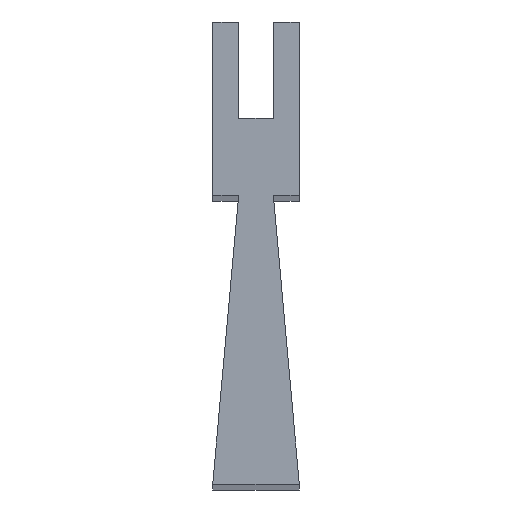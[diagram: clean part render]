
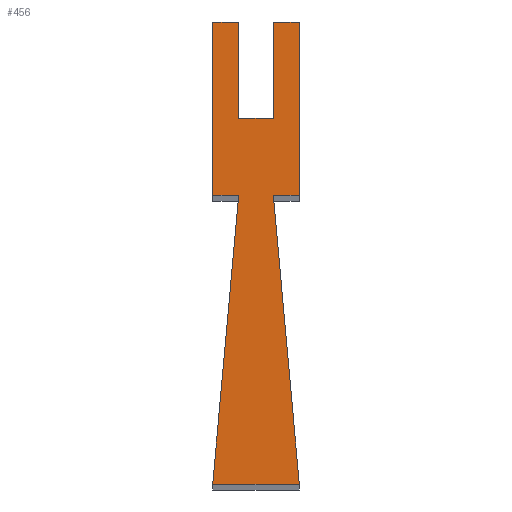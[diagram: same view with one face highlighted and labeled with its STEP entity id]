
A CAD part, top view. The second image highlights one B-rep face of the part: STEP entity #456.
In plain terms, the highlighted planar face has unit normal (0, 0, 1).
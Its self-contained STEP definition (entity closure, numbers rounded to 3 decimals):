
#3 = CARTESIAN_POINT ( 'NONE',  ( 1.8, -9., 175. ) ) ;
#4 = CARTESIAN_POINT ( 'NONE',  ( 4.5, 9., 175. ) ) ;
#15 = VERTEX_POINT ( 'NONE', #292 ) ;
#25 = LINE ( 'NONE', #410, #86 ) ;
#29 = CARTESIAN_POINT ( 'NONE',  ( 4.5, 9., 175. ) ) ;
#37 = AXIS2_PLACEMENT_3D ( 'NONE', #249, #178, #357 ) ;
#41 = DIRECTION ( 'NONE',  ( 0., -1., 0. ) ) ;
#44 = LINE ( 'NONE', #443, #408 ) ;
#50 = LINE ( 'NONE', #445, #230 ) ;
#53 = ORIENTED_EDGE ( 'NONE', *, *, #279, .T. ) ;
#58 = EDGE_LOOP ( 'NONE', ( #87, #53, #192, #185, #368, #282, #442, #348, #296, #109, #112, #240 ) ) ;
#68 = CARTESIAN_POINT ( 'NONE',  ( 4.5, -9., 175. ) ) ;
#71 = CARTESIAN_POINT ( 'NONE',  ( -4.5, 9., 175. ) ) ;
#72 = EDGE_CURVE ( 'NONE', #287, #151, #44, .T. ) ;
#73 = CARTESIAN_POINT ( 'NONE',  ( -1.8, 9., 175. ) ) ;
#77 = VERTEX_POINT ( 'NONE', #371 ) ;
#78 = EDGE_CURVE ( 'NONE', #300, #253, #25, .T. ) ;
#79 = FACE_OUTER_BOUND ( 'NONE', #58, .T. ) ;
#81 = DIRECTION ( 'NONE',  ( -0.09, 0.996, 0. ) ) ;
#82 = DIRECTION ( 'NONE',  ( -0.09, -0.996, 0. ) ) ;
#86 = VECTOR ( 'NONE', #41, 1000. ) ;
#87 = ORIENTED_EDGE ( 'NONE', *, *, #124, .T. ) ;
#97 = CARTESIAN_POINT ( 'NONE',  ( -4.5, -39., 175. ) ) ;
#98 = CARTESIAN_POINT ( 'NONE',  ( -1.8, -9., 175. ) ) ;
#104 = CARTESIAN_POINT ( 'NONE',  ( -1.8, 9., 175. ) ) ;
#109 = ORIENTED_EDGE ( 'NONE', *, *, #322, .T. ) ;
#112 = ORIENTED_EDGE ( 'NONE', *, *, #365, .T. ) ;
#121 = VECTOR ( 'NONE', #354, 1000. ) ;
#123 = CARTESIAN_POINT ( 'NONE',  ( -4.5, 9., 175. ) ) ;
#124 = EDGE_CURVE ( 'NONE', #77, #15, #439, .T. ) ;
#127 = VECTOR ( 'NONE', #293, 1000. ) ;
#130 = EDGE_CURVE ( 'NONE', #417, #381, #400, .T. ) ;
#142 = CARTESIAN_POINT ( 'NONE',  ( 1.8, -9., 175. ) ) ;
#143 = DIRECTION ( 'NONE',  ( 0., 1., 0. ) ) ;
#151 = VERTEX_POINT ( 'NONE', #227 ) ;
#160 = EDGE_CURVE ( 'NONE', #466, #300, #50, .T. ) ;
#163 = LINE ( 'NONE', #29, #246 ) ;
#175 = DIRECTION ( 'NONE',  ( 1., 0., 0. ) ) ;
#178 = DIRECTION ( 'NONE',  ( 0., 0., 1. ) ) ;
#180 = DIRECTION ( 'NONE',  ( -1., 0., 0. ) ) ;
#182 = VECTOR ( 'NONE', #283, 1000. ) ;
#185 = ORIENTED_EDGE ( 'NONE', *, *, #255, .T. ) ;
#186 = LINE ( 'NONE', #71, #434 ) ;
#192 = ORIENTED_EDGE ( 'NONE', *, *, #72, .T. ) ;
#198 = CARTESIAN_POINT ( 'NONE',  ( -4.5, -9., 175. ) ) ;
#203 = CARTESIAN_POINT ( 'NONE',  ( -1.8, -1., 175. ) ) ;
#224 = VERTEX_POINT ( 'NONE', #264 ) ;
#227 = CARTESIAN_POINT ( 'NONE',  ( -4.5, -39., 175. ) ) ;
#230 = VECTOR ( 'NONE', #419, 1000. ) ;
#232 = EDGE_CURVE ( 'NONE', #448, #466, #163, .T. ) ;
#240 = ORIENTED_EDGE ( 'NONE', *, *, #379, .T. ) ;
#246 = VECTOR ( 'NONE', #355, 1000. ) ;
#248 = VERTEX_POINT ( 'NONE', #104 ) ;
#249 = CARTESIAN_POINT ( 'NONE',  ( -4.5, 9., 175. ) ) ;
#253 = VERTEX_POINT ( 'NONE', #276 ) ;
#255 = EDGE_CURVE ( 'NONE', #151, #417, #309, .T. ) ;
#264 = CARTESIAN_POINT ( 'NONE',  ( -1.8, -1., 175. ) ) ;
#271 = CARTESIAN_POINT ( 'NONE',  ( 1.8, 9., 175. ) ) ;
#276 = CARTESIAN_POINT ( 'NONE',  ( 1.8, -1., 175. ) ) ;
#279 = EDGE_CURVE ( 'NONE', #15, #287, #435, .T. ) ;
#282 = ORIENTED_EDGE ( 'NONE', *, *, #421, .T. ) ;
#283 = DIRECTION ( 'NONE',  ( 1., 0., 0. ) ) ;
#286 = VECTOR ( 'NONE', #175, 1000. ) ;
#287 = VERTEX_POINT ( 'NONE', #98 ) ;
#292 = CARTESIAN_POINT ( 'NONE',  ( -4.5, -9., 175. ) ) ;
#293 = DIRECTION ( 'NONE',  ( 0., -1., 0. ) ) ;
#295 = VECTOR ( 'NONE', #81, 1000. ) ;
#296 = ORIENTED_EDGE ( 'NONE', *, *, #78, .T. ) ;
#300 = VERTEX_POINT ( 'NONE', #271 ) ;
#309 = LINE ( 'NONE', #97, #286 ) ;
#320 = PLANE ( 'NONE',  #37 ) ;
#322 = EDGE_CURVE ( 'NONE', #253, #224, #465, .T. ) ;
#324 = LINE ( 'NONE', #73, #359 ) ;
#348 = ORIENTED_EDGE ( 'NONE', *, *, #160, .T. ) ;
#351 = LINE ( 'NONE', #142, #182 ) ;
#354 = DIRECTION ( 'NONE',  ( 1., 0., 0. ) ) ;
#355 = DIRECTION ( 'NONE',  ( 0., 1., 0. ) ) ;
#357 = DIRECTION ( 'NONE',  ( 1., 0., 0. ) ) ;
#359 = VECTOR ( 'NONE', #143, 1000. ) ;
#365 = EDGE_CURVE ( 'NONE', #224, #248, #324, .T. ) ;
#366 = CARTESIAN_POINT ( 'NONE',  ( 4.5, -39., 175. ) ) ;
#368 = ORIENTED_EDGE ( 'NONE', *, *, #130, .T. ) ;
#371 = CARTESIAN_POINT ( 'NONE',  ( -4.5, 9., 175. ) ) ;
#379 = EDGE_CURVE ( 'NONE', #248, #77, #186, .T. ) ;
#381 = VERTEX_POINT ( 'NONE', #3 ) ;
#391 = DIRECTION ( 'NONE',  ( -1., 0., 0. ) ) ;
#399 = VECTOR ( 'NONE', #391, 1000. ) ;
#400 = LINE ( 'NONE', #366, #295 ) ;
#408 = VECTOR ( 'NONE', #82, 1000. ) ;
#410 = CARTESIAN_POINT ( 'NONE',  ( 1.8, 9., 175. ) ) ;
#417 = VERTEX_POINT ( 'NONE', #463 ) ;
#419 = DIRECTION ( 'NONE',  ( -1., 0., 0. ) ) ;
#421 = EDGE_CURVE ( 'NONE', #381, #448, #351, .T. ) ;
#434 = VECTOR ( 'NONE', #180, 1000. ) ;
#435 = LINE ( 'NONE', #198, #121 ) ;
#439 = LINE ( 'NONE', #123, #127 ) ;
#442 = ORIENTED_EDGE ( 'NONE', *, *, #232, .T. ) ;
#443 = CARTESIAN_POINT ( 'NONE',  ( -1.8, -9., 175. ) ) ;
#445 = CARTESIAN_POINT ( 'NONE',  ( 1.8, 9., 175. ) ) ;
#448 = VERTEX_POINT ( 'NONE', #68 ) ;
#456 = ADVANCED_FACE ( 'NONE', ( #79 ), #320, .T. ) ;
#463 = CARTESIAN_POINT ( 'NONE',  ( 4.5, -39., 175. ) ) ;
#465 = LINE ( 'NONE', #203, #399 ) ;
#466 = VERTEX_POINT ( 'NONE', #4 ) ;
